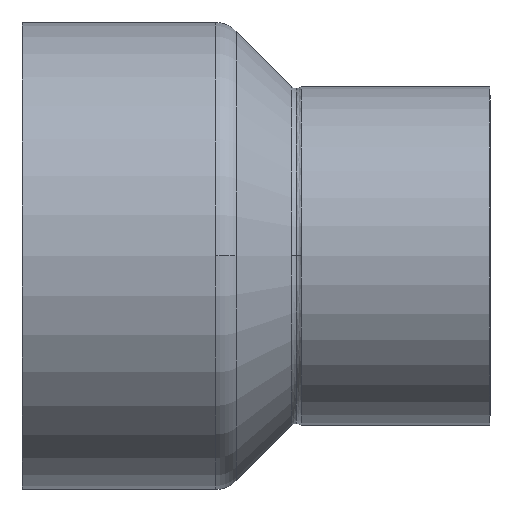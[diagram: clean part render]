
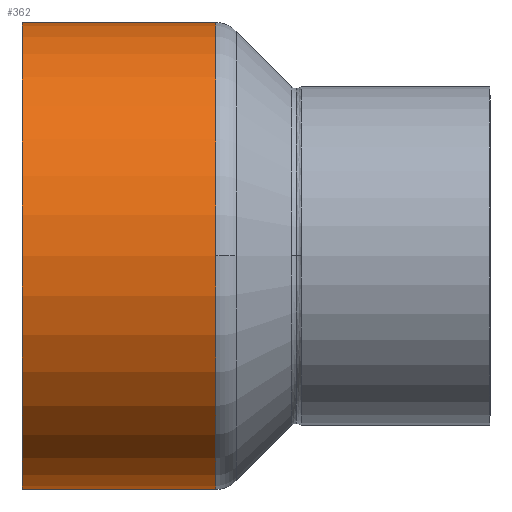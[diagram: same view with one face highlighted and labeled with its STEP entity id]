
A CAD part, top view. The second image highlights one B-rep face of the part: STEP entity #362.
In plain terms, the highlighted cylindrical face has radius 40.25 mm (diameter 80.5 mm), a partial arc.
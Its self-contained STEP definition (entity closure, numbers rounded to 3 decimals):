
#312=CARTESIAN_POINT('',(16.694,0.0,0.0));
#313=DIRECTION('',(1.0,0.0,0.0));
#314=DIRECTION('',(0.0,1.0,0.0));
#315=AXIS2_PLACEMENT_3D('',#312,#313,#314);
#316=CYLINDRICAL_SURFACE('',#315,40.25);
#317=CARTESIAN_POINT('',(0.,40.25,0.0));
#318=VERTEX_POINT('',#317);
#319=CARTESIAN_POINT('',(33.387,40.25,0.0));
#320=VERTEX_POINT('',#319);
#321=CARTESIAN_POINT('',(0.,40.25,0.0));
#322=DIRECTION('',(1.0,0.0,0.0));
#323=VECTOR('',#322,33.387);
#324=LINE('',#321,#323);
#325=EDGE_CURVE('',#318,#320,#324,.T.);
#326=ORIENTED_EDGE('',*,*,#325,.F.);
#327=CARTESIAN_POINT('',(0.,-40.25,0.));
#328=VERTEX_POINT('',#327);
#329=CARTESIAN_POINT('',(0.,0.0,0.0));
#330=DIRECTION('',(1.0,0.0,0.0));
#331=DIRECTION('',(0.0,1.0,0.0));
#332=AXIS2_PLACEMENT_3D('',#329,#330,#331);
#333=CIRCLE('',#332,40.25);
#334=EDGE_CURVE('',#318,#328,#333,.T.);
#335=ORIENTED_EDGE('',*,*,#334,.T.);
#336=CARTESIAN_POINT('',(33.387,-40.25,0.));
#337=VERTEX_POINT('',#336);
#338=CARTESIAN_POINT('',(33.387,-40.25,0.));
#339=DIRECTION('',(-1.0,0.0,0.0));
#340=VECTOR('',#339,33.387);
#341=LINE('',#338,#340);
#342=EDGE_CURVE('',#337,#328,#341,.T.);
#343=ORIENTED_EDGE('',*,*,#342,.F.);
#344=CARTESIAN_POINT('',(33.387,0.,40.25));
#345=VERTEX_POINT('',#344);
#346=CARTESIAN_POINT('',(33.387,0.0,0.0));
#347=DIRECTION('',(1.0,0.0,0.0));
#348=DIRECTION('',(0.0,1.0,0.0));
#349=AXIS2_PLACEMENT_3D('',#346,#347,#348);
#350=CIRCLE('',#349,40.25);
#351=EDGE_CURVE('',#345,#337,#350,.T.);
#352=ORIENTED_EDGE('',*,*,#351,.F.);
#353=CARTESIAN_POINT('',(33.387,0.0,0.0));
#354=DIRECTION('',(1.0,0.0,0.0));
#355=DIRECTION('',(0.0,1.0,0.0));
#356=AXIS2_PLACEMENT_3D('',#353,#354,#355);
#357=CIRCLE('',#356,40.25);
#358=EDGE_CURVE('',#320,#345,#357,.T.);
#359=ORIENTED_EDGE('',*,*,#358,.F.);
#360=EDGE_LOOP('',(#326,#335,#343,#352,#359));
#361=FACE_OUTER_BOUND('',#360,.T.);
#362=ADVANCED_FACE('',(#361),#316,.T.);
